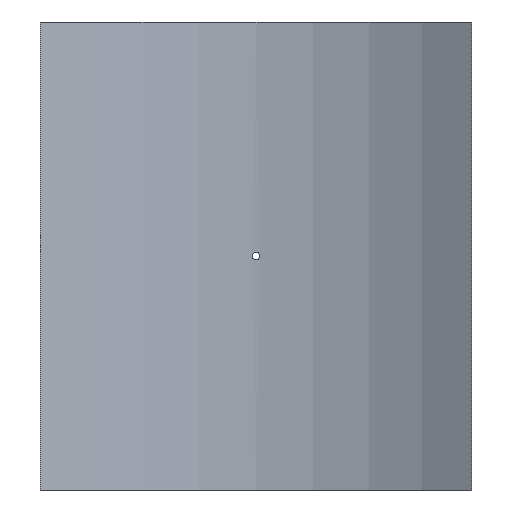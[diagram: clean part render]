
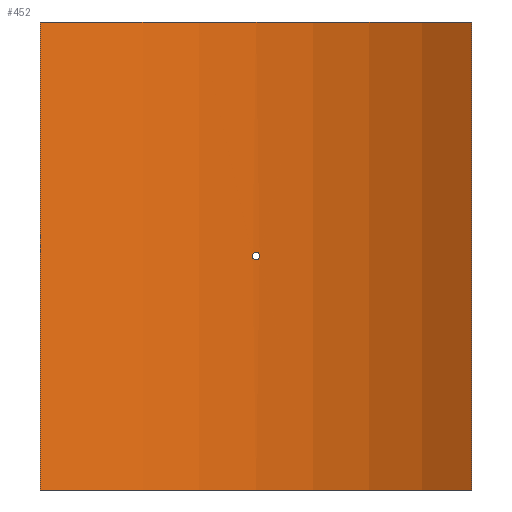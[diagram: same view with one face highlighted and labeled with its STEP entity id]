
A CAD part, front view. The second image highlights one B-rep face of the part: STEP entity #452.
In plain terms, the highlighted cylindrical face has radius 500 mm (diameter 1000 mm), a partial arc.
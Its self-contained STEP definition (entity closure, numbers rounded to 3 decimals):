
#19=B_SPLINE_CURVE_WITH_KNOTS('',3,(#788,#789,#790,#791,#792,#793,#794,
#795,#796,#797,#798,#799,#800,#801,#802,#803,#804,#805,#806,#807,#808,#809,
#810,#811,#812,#813,#814,#815,#816,#817,#818,#819,#820,#821),
 .UNSPECIFIED.,.T.,.F.,(4,2,2,2,2,2,2,2,2,2,2,2,2,2,2,2,4),(0.,0.181,
0.362,0.542,0.723,0.904,
1.085,1.266,1.446,1.627,1.808,
1.989,2.17,2.351,2.531,2.712,
2.893),.UNSPECIFIED.);
#43=LINE('',#1097,#62);
#44=LINE('',#1100,#63);
#62=VECTOR('',#661,10.);
#63=VECTOR('',#664,10.);
#76=CYLINDRICAL_SURFACE('',#530,500.);
#88=FACE_BOUND('',#167,.T.);
#127=FACE_OUTER_BOUND('',#166,.T.);
#166=EDGE_LOOP('',(#405,#406,#407,#408));
#167=EDGE_LOOP('',(#409));
#201=CIRCLE('',#529,500.);
#202=CIRCLE('',#531,500.);
#219=VERTEX_POINT('',#786);
#242=VERTEX_POINT('',#1090);
#243=VERTEX_POINT('',#1092);
#244=VERTEX_POINT('',#1096);
#245=VERTEX_POINT('',#1098);
#267=EDGE_CURVE('',#219,#219,#19,.T.);
#299=EDGE_CURVE('',#242,#243,#201,.T.);
#301=EDGE_CURVE('',#244,#242,#43,.T.);
#302=EDGE_CURVE('',#245,#244,#202,.T.);
#303=EDGE_CURVE('',#245,#243,#44,.T.);
#405=ORIENTED_EDGE('',*,*,#301,.F.);
#406=ORIENTED_EDGE('',*,*,#302,.F.);
#407=ORIENTED_EDGE('',*,*,#303,.T.);
#408=ORIENTED_EDGE('',*,*,#299,.F.);
#409=ORIENTED_EDGE('',*,*,#267,.T.);
#452=ADVANCED_FACE('',(#127,#88),#76,.F.);
#529=AXIS2_PLACEMENT_3D('',#1093,#656,#657);
#530=AXIS2_PLACEMENT_3D('',#1095,#659,#660);
#531=AXIS2_PLACEMENT_3D('',#1099,#662,#663);
#656=DIRECTION('center_axis',(0.,0.,1.));
#657=DIRECTION('ref_axis',(0.563,0.826,0.));
#659=DIRECTION('center_axis',(0.,0.,1.));
#660=DIRECTION('ref_axis',(0.563,0.826,0.));
#661=DIRECTION('',(0.,0.,-1.));
#662=DIRECTION('center_axis',(0.,0.,-1.));
#663=DIRECTION('ref_axis',(0.563,0.826,0.));
#664=DIRECTION('',(0.,0.,-1.));
#786=CARTESIAN_POINT('',(4.8,499.977,0.));
#788=CARTESIAN_POINT('Ctrl Pts',(4.8,499.977,0.));
#789=CARTESIAN_POINT('Ctrl Pts',(4.8,499.977,-0.603));
#790=CARTESIAN_POINT('Ctrl Pts',(4.68,499.978,-1.246));
#791=CARTESIAN_POINT('Ctrl Pts',(4.19,499.983,-2.428));
#792=CARTESIAN_POINT('Ctrl Pts',(3.82,499.986,-2.968));
#793=CARTESIAN_POINT('Ctrl Pts',(2.968,499.991,-3.82));
#794=CARTESIAN_POINT('Ctrl Pts',(2.428,499.994,-4.19));
#795=CARTESIAN_POINT('Ctrl Pts',(1.246,499.999,-4.68));
#796=CARTESIAN_POINT('Ctrl Pts',(0.603,500.,-4.8));
#797=CARTESIAN_POINT('Ctrl Pts',(-0.603,500.,-4.8));
#798=CARTESIAN_POINT('Ctrl Pts',(-1.246,499.999,-4.68));
#799=CARTESIAN_POINT('Ctrl Pts',(-2.428,499.994,-4.19));
#800=CARTESIAN_POINT('Ctrl Pts',(-2.968,499.991,-3.82));
#801=CARTESIAN_POINT('Ctrl Pts',(-3.82,499.986,-2.968));
#802=CARTESIAN_POINT('Ctrl Pts',(-4.19,499.983,-2.428));
#803=CARTESIAN_POINT('Ctrl Pts',(-4.68,499.978,-1.246));
#804=CARTESIAN_POINT('Ctrl Pts',(-4.8,499.977,-0.603));
#805=CARTESIAN_POINT('Ctrl Pts',(-4.8,499.977,0.603));
#806=CARTESIAN_POINT('Ctrl Pts',(-4.68,499.978,1.246));
#807=CARTESIAN_POINT('Ctrl Pts',(-4.19,499.983,2.428));
#808=CARTESIAN_POINT('Ctrl Pts',(-3.82,499.986,2.968));
#809=CARTESIAN_POINT('Ctrl Pts',(-2.968,499.991,3.82));
#810=CARTESIAN_POINT('Ctrl Pts',(-2.428,499.994,4.19));
#811=CARTESIAN_POINT('Ctrl Pts',(-1.246,499.999,4.68));
#812=CARTESIAN_POINT('Ctrl Pts',(-0.603,500.,4.8));
#813=CARTESIAN_POINT('Ctrl Pts',(0.603,500.,4.8));
#814=CARTESIAN_POINT('Ctrl Pts',(1.246,499.999,4.68));
#815=CARTESIAN_POINT('Ctrl Pts',(2.428,499.994,4.19));
#816=CARTESIAN_POINT('Ctrl Pts',(2.968,499.991,3.82));
#817=CARTESIAN_POINT('Ctrl Pts',(3.82,499.986,2.968));
#818=CARTESIAN_POINT('Ctrl Pts',(4.19,499.983,2.428));
#819=CARTESIAN_POINT('Ctrl Pts',(4.68,499.978,1.246));
#820=CARTESIAN_POINT('Ctrl Pts',(4.8,499.977,0.603));
#821=CARTESIAN_POINT('Ctrl Pts',(4.8,499.977,0.));
#1090=CARTESIAN_POINT('',(281.5,413.228,-305.));
#1092=CARTESIAN_POINT('',(-281.5,413.228,-305.));
#1093=CARTESIAN_POINT('Origin',(0.,0.,
-305.));
#1095=CARTESIAN_POINT('Origin',(0.,0.,
0.));
#1096=CARTESIAN_POINT('',(281.5,413.228,305.));
#1097=CARTESIAN_POINT('',(281.5,413.228,0.));
#1098=CARTESIAN_POINT('',(-281.5,413.228,305.));
#1099=CARTESIAN_POINT('Origin',(0.,0.,
305.));
#1100=CARTESIAN_POINT('',(-281.5,413.228,0.));
